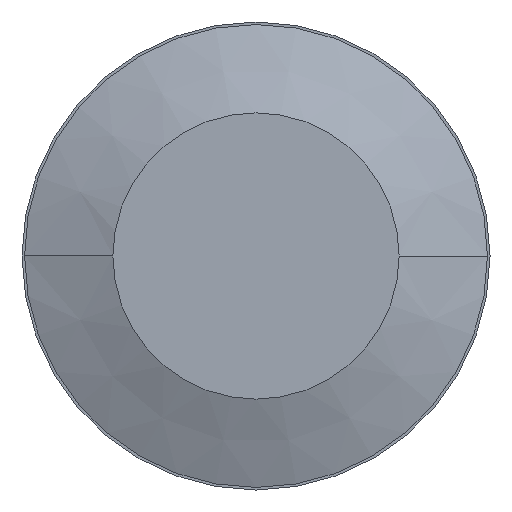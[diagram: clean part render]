
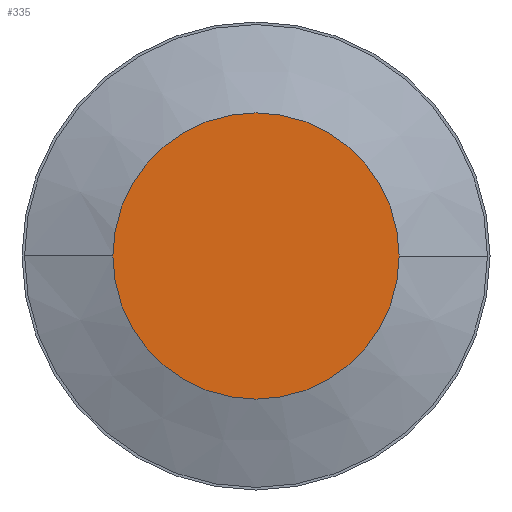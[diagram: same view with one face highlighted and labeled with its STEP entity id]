
A CAD part, left-side view. The second image highlights one B-rep face of the part: STEP entity #335.
In plain terms, the highlighted planar face has unit normal (-1, 0, 0).
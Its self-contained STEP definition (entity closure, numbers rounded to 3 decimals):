
#37=PLANE('',#396);
#54=FACE_OUTER_BOUND('',#85,.T.);
#85=EDGE_LOOP('',(#266,#267));
#144=CIRCLE('',#397,11.131);
#145=CIRCLE('',#398,11.131);
#172=VERTEX_POINT('',#635);
#173=VERTEX_POINT('',#636);
#206=EDGE_CURVE('',#172,#173,#144,.T.);
#207=EDGE_CURVE('',#173,#172,#145,.T.);
#266=ORIENTED_EDGE('',*,*,#206,.F.);
#267=ORIENTED_EDGE('',*,*,#207,.F.);
#335=ADVANCED_FACE('',(#54),#37,.F.);
#396=AXIS2_PLACEMENT_3D('',#634,#477,#478);
#397=AXIS2_PLACEMENT_3D('',#637,#479,#480);
#398=AXIS2_PLACEMENT_3D('',#638,#481,#482);
#477=DIRECTION('center_axis',(1.,0.,0.));
#478=DIRECTION('ref_axis',(0.,0.,-1.));
#479=DIRECTION('center_axis',(1.,0.,0.));
#480=DIRECTION('ref_axis',(0.,-0.951,-0.309));
#481=DIRECTION('center_axis',(1.,0.,0.));
#482=DIRECTION('ref_axis',(0.,0.951,0.309));
#634=CARTESIAN_POINT('Origin',(-47.5,0.,11.145));
#635=CARTESIAN_POINT('',(-47.5,-11.131,0.));
#636=CARTESIAN_POINT('',(-47.5,11.131,0.));
#637=CARTESIAN_POINT('Origin',(-47.5,0.,0.));
#638=CARTESIAN_POINT('Origin',(-47.5,0.,0.));
